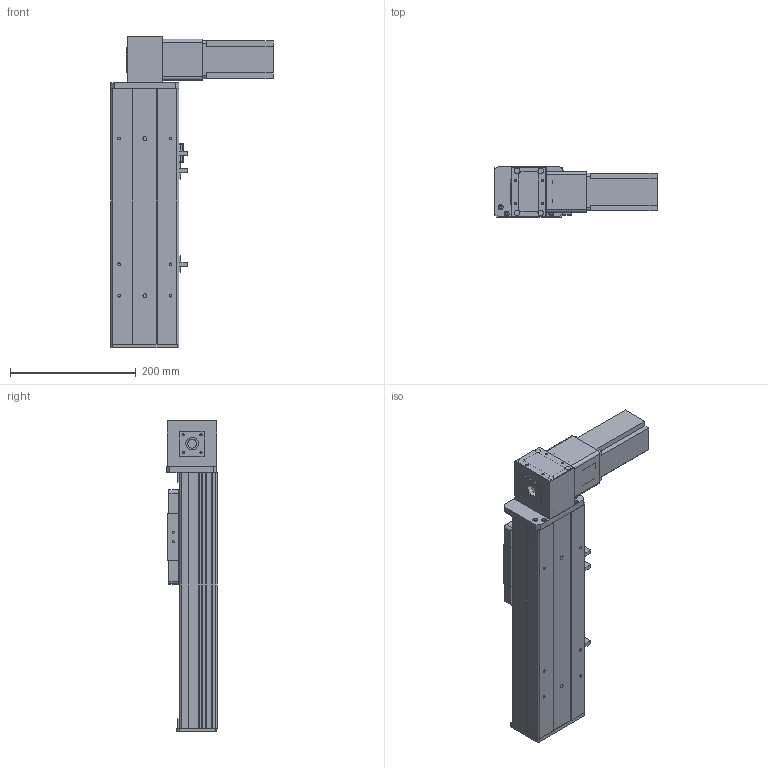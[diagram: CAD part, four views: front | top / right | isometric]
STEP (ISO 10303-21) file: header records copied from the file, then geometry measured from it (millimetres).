
FILE_DESCRIPTION (( 'STEP AP203' ), '1' );
FILE_NAME ('Y10CB-D90-S150-BD-P400W.STEP', '2020-02-17T02:17:23', ( '微软用户' ), ( '微软中国' ), 'SwSTEP 2.0', 'SolidWorks 2017', '' );
FILE_SCHEMA (( 'CONFIG_CONTROL_DESIGN' ));
Length unit declared in the file: millimetre
Products named in the file (16): 10CB-耜裔; Y10B-々湍喘謫眊楊擘啣--; Y135C-陔俋离換覜結え-; san松下电机400不带刹车----; Y100-135俋离換覜ん--; 0B-源倛裔啣; Y10B--々湍喘謫眊--666; 0B-埴倛裔啣; 0B-薊粣ん眊; 10CB-詩湍-; Y10CB-D90-S150-BD-P400W; Y10CB- 掛极耜裔啣-毀---; Y10C---詩湍揤啣; 0CB-雄赽釱---; 10CB9-掛极; 0Cb-俋欶---
Assembly tree (19 placements, depth 2):
  Y10CB-D90-S150-BD-P400W
    0CB-雄赽釱---
    0Cb-俋欶---
    Y10B-々湍喘謫眊楊擘啣--
    san松下电机400不带刹车----
    0B-源倛裔啣
    0B-埴倛裔啣
    10CB-詩湍-
    Y10CB- 掛极耜裔啣-毀---  x2
    Y10C---詩湍揤啣  x2
    10CB9-掛极
    10CB-耜裔
    Y135C-陔俋离換覜結え-
    Y100-135俋离換覜ん--  x3
    Y10B--々湍喘謫眊--666
    0B-薊粣ん眊
Bounding box: 258 x 80.5 x 496 mm (x, y, z)
Volume: 1652884 mm3; surface area: 619588.6 mm2
Topology: 19 solids, 19 shells, 852 faces, 2222 edges, 1460 vertices
Faces by surface type: plane 428, cylinder 400, cone 24
Entity records: 25569 total; most frequent: CARTESIAN_POINT 4312, DIRECTION 4185, ORIENTED_EDGE 3914, EDGE_CURVE 1957, AXIS2_PLACEMENT_3D 1503, VERTEX_POINT 1286, VECTOR 1179, LINE 1179
